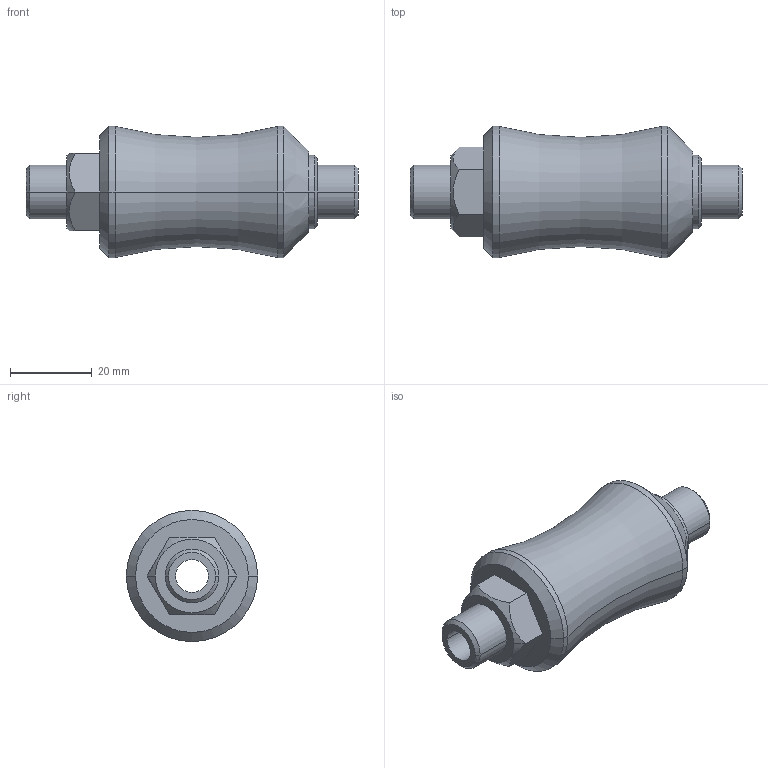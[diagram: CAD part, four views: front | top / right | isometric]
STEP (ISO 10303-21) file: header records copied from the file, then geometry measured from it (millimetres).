
FILE_DESCRIPTION((''),'2;1');
FILE_NAME('0820405001','2023-09-06T14:32:32',('THD3HC'),(''),'CREO PARAMETRIC BY PTC INC, 2020044','CREO PARAMETRIC BY PTC INC, 2020044','');
FILE_SCHEMA(('CONFIG_CONTROL_DESIGN','SHAPE_APPEARANCE_LAYERS_GROUPS'));
Length unit declared in the file: millimetre
Products named in the file (1): 0820405001
Bounding box: 81 x 32 x 32 mm (x, y, z)
Volume: 34068.3 mm3; surface area: 9356.3 mm2
Topology: 1 solids, 1 shells, 41 faces, 86 edges, 52 vertices
Faces by surface type: cylinder 14, plane 13, cone 12, torus 2
Entity records: 1585 total; most frequent: CARTESIAN_POINT 323, DIRECTION 204, ORIENTED_EDGE 172, EDGE_CURVE 86, AXIS2_PLACEMENT_3D 83, VERTEX_POINT 52, EDGE_LOOP 48, CIRCLE 42
